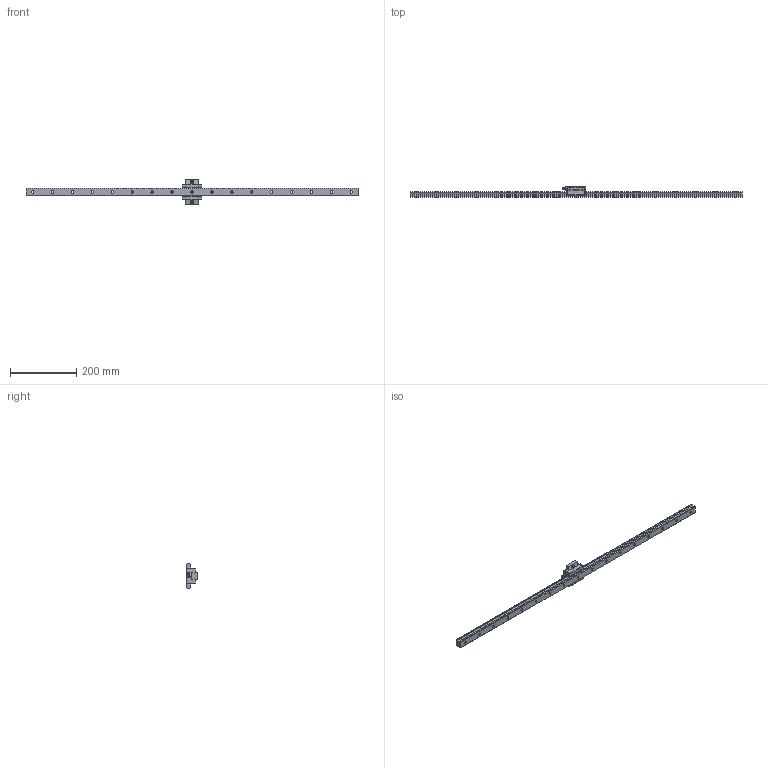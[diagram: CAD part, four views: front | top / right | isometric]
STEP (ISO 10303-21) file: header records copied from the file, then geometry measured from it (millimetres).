
FILE_DESCRIPTION(/* description */ ('STEP AP214'),/* implementation_level */ '2;1');
FILE_NAME(/* name */ 'SSR25XSB-Y1SS-1000LY_G20_0_B-M6F_470_0_0_0',/* time_stamp */ '2023-08-10T09:18:26+02:00',/* author */ ('License CC BY-ND 4.0'),/* organization */ ('CADENAS'),/* preprocessor_version */ 'ST-DEVELOPER v19.3',/* originating_system */ 'PARTsolutions',/* authorisation */ ' ');
FILE_SCHEMA (('PROCESS_PLANNING_SCHEMA','AUTOMOTIVE_DESIGN {1 0 10303 214 3 1 1}'));
Length unit declared in the file: millimetre
Products named in the file (4): SSR25XSB-Y1SS-1000LY_G20_0_B-M6F_470_0_0_0_; B-M6F-SSR_grease_nipple_joint; SSR25XSB-YSSB-M6F Slide15-35; SSR25XSB-Y100020Y Track
Assembly tree (3 placements, depth 2):
  SSR25XSB-Y1SS-1000LY_G20_0_B-M6F_470_0_0_0_
    B-M6F-SSR_grease_nipple_joint
    SSR25XSB-YSSB-M6F Slide15-35
    SSR25XSB-Y100020Y Track
Bounding box: 1000 x 33 x 73 mm (x, y, z)
Volume: 420280.9 mm3; surface area: 110625.6 mm2
Topology: 3 solids, 3 shells, 251 faces, 620 edges, 397 vertices
Faces by surface type: plane 169, cylinder 64, cone 13, sphere 3, torus 2
Full cylindrical faces by diameter (mm): 3 x4, 4.917 x2, 6 x1, 7 x19, 8 x1, 11 x17
Entity records: 7235 total; most frequent: CARTESIAN_POINT 1326, DIRECTION 1186, ORIENTED_EDGE 1108, EDGE_CURVE 554, AXIS2_PLACEMENT_3D 409, VERTEX_POINT 389, FACE_BOUND 369, LINE 368
